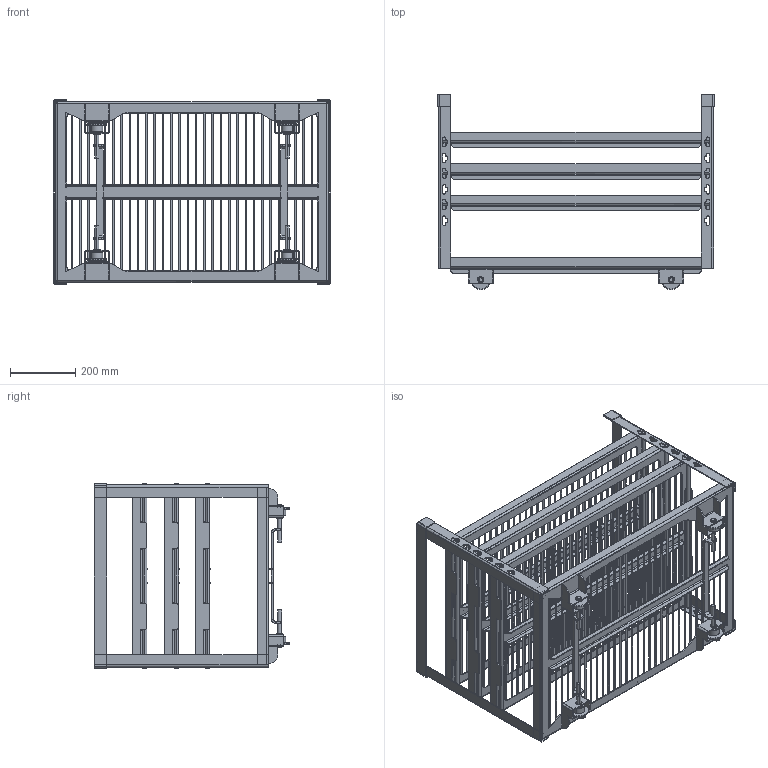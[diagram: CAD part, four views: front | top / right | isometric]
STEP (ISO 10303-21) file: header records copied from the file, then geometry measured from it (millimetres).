
FILE_DESCRIPTION (( 'STEP AP203' ), '1' );
FILE_NAME ('26AV-HC - CART.STEP', '2025-11-10T16:53:38', ( '' ), ( '' ), 'SwSTEP 2.0', 'SolidWorks 2024', '' );
FILE_SCHEMA (( 'CONFIG_CONTROL_DESIGN' ));
Length unit declared in the file: inch
Products named in the file (16): 93292 - 26 CART WIRE RACK_-01, 26A; 91428 - CART WHEEL; 91429 - CART WHEEL BEARING; WASHER, FLAT, 0.500 ID x 0.750 OD x 0.06 THK, PTFE_90334A129; 93273 - CART AXLE BRACKET_-03, 26; RETAINING RING, EXTERNAL, 0.500 OD, 15-7SS; 92463 - CART WHEEL BEARING ASSY; 93274 - 26 CART BASE_-01, 26A; 93778 - CART AXLE BRACE_-02, 2A; 93296 - 26 CART SHELF WELDMENT_-01 26A; 93278 - CART SHELF SUPPORT_26 Width; 26AV-HC - CART; 93277 - CART AXLE_new; 93272 - CART UPRIGHT BAND_-26; 93275 - 26 CART SHELF_-01 A; 93276 - 26 SQ CART UPRIGHT_26 Upright
Assembly tree (52 placements, depth 3):
  26AV-HC - CART
    93274 - 26 CART BASE_-01, 26A
    93296 - 26 CART SHELF WELDMENT_-01 26A  x3
      93275 - 26 CART SHELF_-01 A
      93292 - 26 CART WIRE RACK_-01, 26A
    93276 - 26 SQ CART UPRIGHT_26 Upright  x4
    93278 - CART SHELF SUPPORT_26 Width  x7
    93272 - CART UPRIGHT BAND_-26  x2
    93273 - CART AXLE BRACKET_-03, 26  x4
    93277 - CART AXLE_new  x4
    92463 - CART WHEEL BEARING ASSY  x4
      91428 - CART WHEEL
      91429 - CART WHEEL BEARING
    WASHER, FLAT, 0.500 ID x 0.750 OD x 0.06 THK, PTFE_90334A129  x8
    RETAINING RING, EXTERNAL, 0.500 OD, 15-7SS  x8
    93292 - 26 CART WIRE RACK_-01, 26A
    93778 - CART AXLE BRACE_-02, 2A  x2
Bounding box: 850.39 x 598.99 x 568.33 mm (x, y, z)
Volume: 5778216.2 mm3; surface area: 3906292.7 mm2
Topology: 183 solids, 183 shells, 2539 faces, 5811 edges, 3646 vertices
Faces by surface type: plane 1174, cylinder 1169, cone 132, bspline 32, torus 32
Entity records: 27965 total; most frequent: CARTESIAN_POINT 4810, DIRECTION 4517, ORIENTED_EDGE 4086, EDGE_CURVE 2043, AXIS2_PLACEMENT_3D 1623, VERTEX_POINT 1276, LINE 1271, VECTOR 1271
